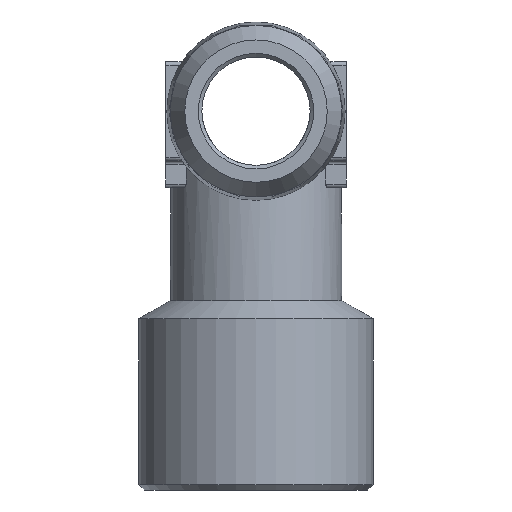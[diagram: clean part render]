
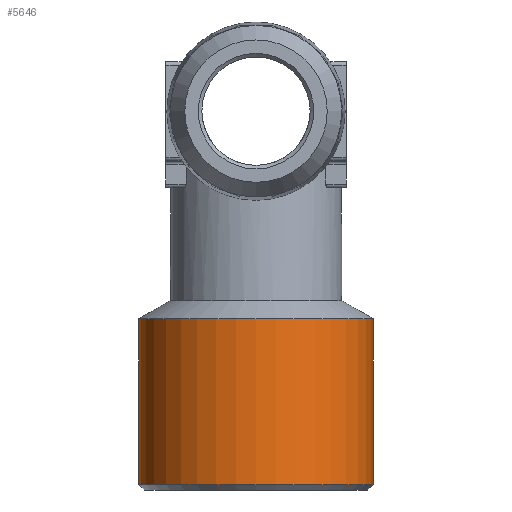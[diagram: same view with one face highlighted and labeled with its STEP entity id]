
A CAD part, left-side view. The second image highlights one B-rep face of the part: STEP entity #5646.
In plain terms, the highlighted cylindrical face has radius 6.5 mm (diameter 13 mm), a full revolution.
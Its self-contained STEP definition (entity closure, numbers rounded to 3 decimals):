
#1569=ORIENTED_EDGE('',*,*,#1922,.F.);
#1570=ORIENTED_EDGE('',*,*,#1921,.T.);
#1737=CIRCLE('',#5545,6.5);
#1738=CIRCLE('',#5547,6.5);
#1818=VERTEX_POINT('',#5375);
#1819=VERTEX_POINT('',#5378);
#1921=EDGE_CURVE('',#1818,#1818,#1737,.T.);
#1922=EDGE_CURVE('',#1819,#1819,#1738,.T.);
#2016=EDGE_LOOP('',(#1569));
#2017=EDGE_LOOP('',(#1570));
#2098=FACE_BOUND('',#2016,.T.);
#2099=FACE_BOUND('',#2017,.T.);
#2271=DIRECTION('',(0.,-1.,0.));
#2272=DIRECTION('',(0.,0.,6.5));
#2273=DIRECTION('',(0.,1.,0.));
#2274=DIRECTION('',(1.,0.,0.));
#2275=DIRECTION('',(0.,-1.,0.));
#2276=DIRECTION('',(0.,0.,6.5));
#5375=CARTESIAN_POINT('',(0.,9.49,6.5));
#5376=CARTESIAN_POINT('',(0.,9.49,0.));
#5377=CARTESIAN_POINT('',(0.,0.3,0.));
#5378=CARTESIAN_POINT('',(0.,0.3,6.5));
#5379=CARTESIAN_POINT('',(0.,0.3,0.));
#5545=AXIS2_PLACEMENT_3D('',#5376,#2271,#2272);
#5546=AXIS2_PLACEMENT_3D('',#5377,#2273,#2274);
#5547=AXIS2_PLACEMENT_3D('',#5379,#2275,#2276);
#5607=CYLINDRICAL_SURFACE('',#5546,6.5);
#5646=ADVANCED_FACE('',(#2098,#2099),#5607,.T.);
